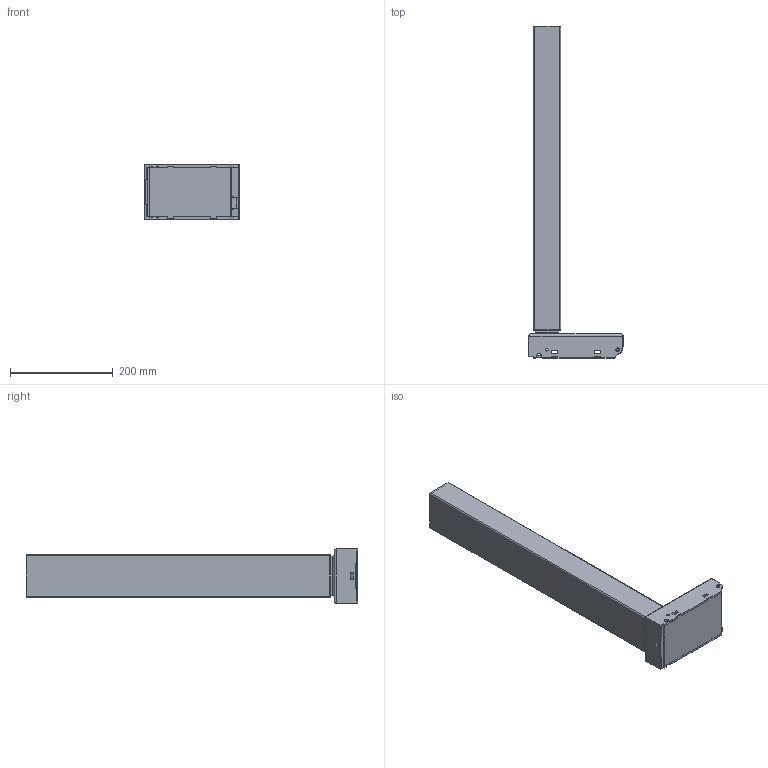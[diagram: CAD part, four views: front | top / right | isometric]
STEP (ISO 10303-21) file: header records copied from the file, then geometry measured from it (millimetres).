
FILE_DESCRIPTION (( 'STEP AP203' ), '1' );
FILE_NAME ('3D_TL32S.STEP', '2018-12-22T02:02:07', ( '' ), ( '' ), 'SwSTEP 2.0', 'SolidWorks 2015', '' );
FILE_SCHEMA (( 'CONFIG_CONTROL_DESIGN' ));
Length unit declared in the file: millimetre
Products named in the file (2): 3D_TL32S
Bounding box: 183 x 645 x 107 mm (x, y, z)
Volume: 2870896.7 mm3; surface area: 289625.8 mm2
Topology: 1 solids, 1 shells, 495 faces, 1272 edges, 767 vertices
Faces by surface type: plane 255, cylinder 162, cone 32, bspline 20, sphere 14, torus 12
Entity records: 15164 total; most frequent: CARTESIAN_POINT 3256, ORIENTED_EDGE 2502, DIRECTION 2397, EDGE_CURVE 1251, VECTOR 875, LINE 875, VERTEX_POINT 765, AXIS2_PLACEMENT_3D 761
